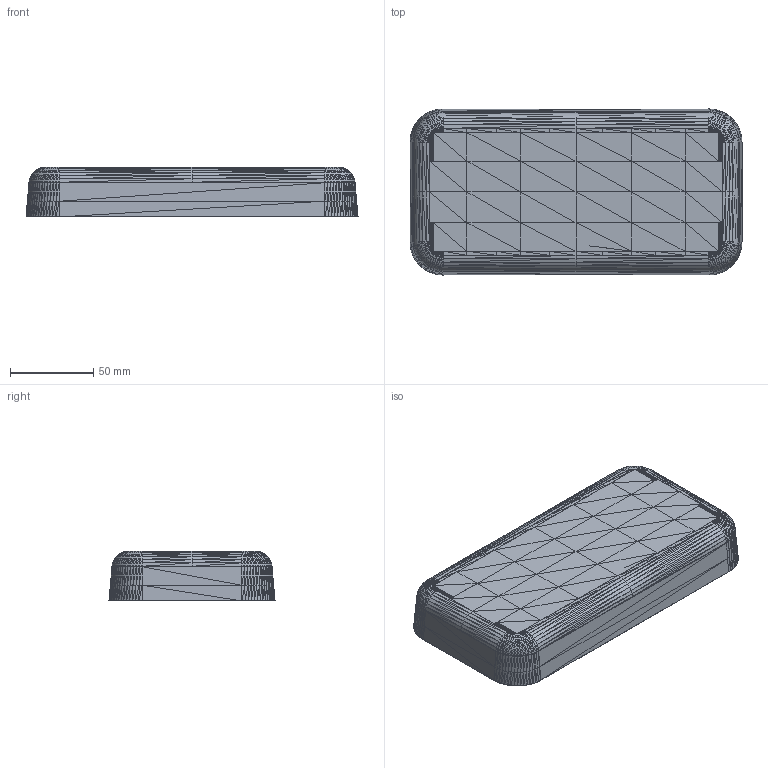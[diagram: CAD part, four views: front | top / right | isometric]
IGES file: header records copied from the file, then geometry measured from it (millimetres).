
Global section: file name: C:\dummy2\TEST.igs; native system: AutoCAD-16.0s (LMS Tech) (Microsoft Windows NT Version 4.0 (x86)); preprocessor: Autodesk IGES Translator Mechanical Desktop.R7.0.43.0 (Mar 18 2003) from Autodesk, Inc.; date: 20031126.224453; units: millimetre
Bounding box: 200 x 100.02 x 30 mm (x, y, z)
Surface area: 52660.1 mm2 (no closed solid volume)
Topology: 0 solids, 0 shells, 3126 faces, 12504 edges, 9378 vertices
Faces by surface type: bspline 3126
